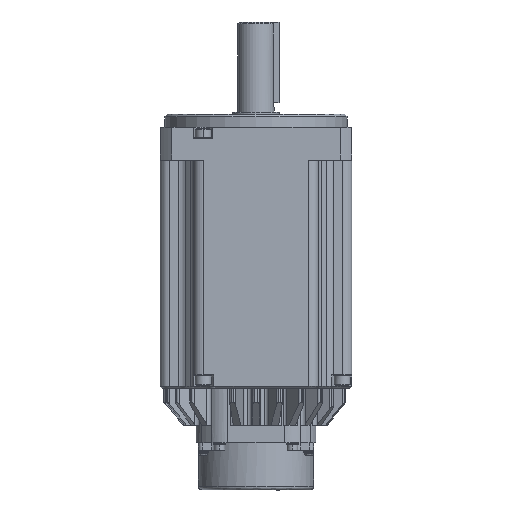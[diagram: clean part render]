
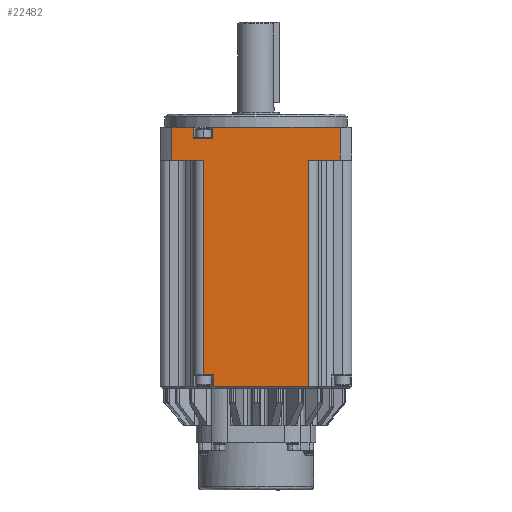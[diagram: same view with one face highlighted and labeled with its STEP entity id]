
A CAD part, front view. The second image highlights one B-rep face of the part: STEP entity #22482.
In plain terms, the highlighted planar face has unit normal (0, -1, 0).
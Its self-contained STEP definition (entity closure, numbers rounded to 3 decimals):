
#1395 = LINE ( 'NONE', #18752, #34320 ) ;
#1616 = EDGE_CURVE ( 'NONE', #54758, #41210, #4548, .T. ) ;
#1860 = VECTOR ( 'NONE', #55583, 1000. ) ;
#2058 = EDGE_CURVE ( 'NONE', #6399, #26367, #1395, .T. ) ;
#2328 = ORIENTED_EDGE ( 'NONE', *, *, #67729, .F. ) ;
#3023 = CARTESIAN_POINT ( 'NONE',  ( -20.939, -50.742, 287.007 ) ) ;
#3371 = ORIENTED_EDGE ( 'NONE', *, *, #28712, .F. ) ;
#4180 = LINE ( 'NONE', #26398, #54676 ) ;
#4548 = LINE ( 'NONE', #75736, #68411 ) ;
#6079 = VECTOR ( 'NONE', #28412, 1000. ) ;
#6326 = CARTESIAN_POINT ( 'NONE',  ( 44.061, -50.742, 270.007 ) ) ;
#6399 = VERTEX_POINT ( 'NONE', #40472 ) ;
#6717 = VECTOR ( 'NONE', #80818, 1000. ) ;
#7398 = PLANE ( 'NONE',  #83135 ) ;
#8842 = EDGE_CURVE ( 'NONE', #8883, #80556, #38994, .T. ) ;
#8883 = VERTEX_POINT ( 'NONE', #9469 ) ;
#9048 = VECTOR ( 'NONE', #61828, 1000. ) ;
#9469 = CARTESIAN_POINT ( 'NONE',  ( -32.283, -50.742, 287.007 ) ) ;
#10301 = VERTEX_POINT ( 'NONE', #29098 ) ;
#11108 = ORIENTED_EDGE ( 'NONE', *, *, #8842, .F. ) ;
#12714 = LINE ( 'NONE', #34054, #78614 ) ;
#13769 = CARTESIAN_POINT ( 'NONE',  ( -15.939, -50.742, 167.507 ) ) ;
#14044 = DIRECTION ( 'NONE',  ( 0., 0., 1. ) ) ;
#18350 = DIRECTION ( 'NONE',  ( -1., 0., 0. ) ) ;
#18752 = CARTESIAN_POINT ( 'NONE',  ( -10.439, -50.742, 167.507 ) ) ;
#19687 = FACE_OUTER_BOUND ( 'NONE', #35810, .T. ) ;
#20341 = CARTESIAN_POINT ( 'NONE',  ( 39.061, -50.742, 270.007 ) ) ;
#20408 = DIRECTION ( 'NONE',  ( 0., 0., 1. ) ) ;
#22482 = ADVANCED_FACE ( 'NONE', ( #19687 ), #7398, .F. ) ;
#24529 = LINE ( 'NONE', #64565, #59597 ) ;
#26367 = VERTEX_POINT ( 'NONE', #61054 ) ;
#26398 = CARTESIAN_POINT ( 'NONE',  ( -10.939, -50.742, 167.507 ) ) ;
#27089 = ORIENTED_EDGE ( 'NONE', *, *, #75361, .F. ) ;
#27459 = VERTEX_POINT ( 'NONE', #62434 ) ;
#27634 = ORIENTED_EDGE ( 'NONE', *, *, #1616, .F. ) ;
#28412 = DIRECTION ( 'NONE',  ( 1., 0., 0. ) ) ;
#28712 = EDGE_CURVE ( 'NONE', #27459, #31500, #51264, .T. ) ;
#29098 = CARTESIAN_POINT ( 'NONE',  ( -10.939, -50.742, 281.007 ) ) ;
#31337 = ORIENTED_EDGE ( 'NONE', *, *, #53091, .F. ) ;
#31440 = VECTOR ( 'NONE', #18350, 1000. ) ;
#31500 = VERTEX_POINT ( 'NONE', #46362 ) ;
#31691 = DIRECTION ( 'NONE',  ( 0., 0., -1. ) ) ;
#32054 = VERTEX_POINT ( 'NONE', #20341 ) ;
#33351 = ORIENTED_EDGE ( 'NONE', *, *, #36828, .F. ) ;
#33445 = DIRECTION ( 'NONE',  ( 0., 0., -1. ) ) ;
#34054 = CARTESIAN_POINT ( 'NONE',  ( 44.061, -50.742, 270.007 ) ) ;
#34320 = VECTOR ( 'NONE', #20408, 1000. ) ;
#35294 = CARTESIAN_POINT ( 'NONE',  ( 55.404, -50.742, 287.007 ) ) ;
#35810 = EDGE_LOOP ( 'NONE', ( #27634, #44591, #2328, #31337, #11108, #33351, #68542, #3371, #27089, #80148, #38919, #58759, #40185, #84434 ) ) ;
#36828 = EDGE_CURVE ( 'NONE', #64893, #8883, #39253, .T. ) ;
#37173 = VECTOR ( 'NONE', #81489, 1000. ) ;
#37525 = EDGE_CURVE ( 'NONE', #10301, #54758, #4180, .T. ) ;
#38458 = VECTOR ( 'NONE', #33445, 1000. ) ;
#38919 = ORIENTED_EDGE ( 'NONE', *, *, #40989, .F. ) ;
#38994 = LINE ( 'NONE', #68199, #6079 ) ;
#39253 = LINE ( 'NONE', #42031, #37173 ) ;
#40185 = ORIENTED_EDGE ( 'NONE', *, *, #62335, .F. ) ;
#40472 = CARTESIAN_POINT ( 'NONE',  ( -10.439, -50.742, 152.007 ) ) ;
#40834 = CARTESIAN_POINT ( 'NONE',  ( 44.061, -50.742, 281.007 ) ) ;
#40989 = EDGE_CURVE ( 'NONE', #62796, #6399, #76453, .T. ) ;
#41210 = VERTEX_POINT ( 'NONE', #35294 ) ;
#42031 = CARTESIAN_POINT ( 'NONE',  ( -32.283, -50.742, 167.507 ) ) ;
#42298 = CARTESIAN_POINT ( 'NONE',  ( -20.939, -50.742, 281.007 ) ) ;
#44319 = DIRECTION ( 'NONE',  ( -1., 0., 0. ) ) ;
#44591 = ORIENTED_EDGE ( 'NONE', *, *, #37525, .F. ) ;
#45702 = DIRECTION ( 'NONE',  ( 0., 0., 1. ) ) ;
#46350 = CARTESIAN_POINT ( 'NONE',  ( -32.283, -50.742, 270.007 ) ) ;
#46362 = CARTESIAN_POINT ( 'NONE',  ( -15.939, -50.742, 270.007 ) ) ;
#48970 = LINE ( 'NONE', #64394, #31440 ) ;
#51264 = LINE ( 'NONE', #13769, #84190 ) ;
#52348 = EDGE_CURVE ( 'NONE', #32054, #62796, #24529, .T. ) ;
#52362 = CARTESIAN_POINT ( 'NONE',  ( -10.939, -50.742, 287.007 ) ) ;
#52677 = VERTEX_POINT ( 'NONE', #42298 ) ;
#53091 = EDGE_CURVE ( 'NONE', #80556, #52677, #79089, .T. ) ;
#53472 = DIRECTION ( 'NONE',  ( 0., 1., 0. ) ) ;
#54422 = LINE ( 'NONE', #40834, #1860 ) ;
#54676 = VECTOR ( 'NONE', #79132, 1000. ) ;
#54758 = VERTEX_POINT ( 'NONE', #52362 ) ;
#54821 = VECTOR ( 'NONE', #44319, 1000. ) ;
#55583 = DIRECTION ( 'NONE',  ( 1., 0., 0. ) ) ;
#55699 = EDGE_CURVE ( 'NONE', #31500, #64893, #59283, .T. ) ;
#58759 = ORIENTED_EDGE ( 'NONE', *, *, #52348, .F. ) ;
#58928 = VERTEX_POINT ( 'NONE', #65971 ) ;
#59283 = LINE ( 'NONE', #6326, #6717 ) ;
#59597 = VECTOR ( 'NONE', #31691, 1000. ) ;
#61054 = CARTESIAN_POINT ( 'NONE',  ( -10.439, -50.742, 158.007 ) ) ;
#61828 = DIRECTION ( 'NONE',  ( 0., 0., -1. ) ) ;
#62335 = EDGE_CURVE ( 'NONE', #58928, #32054, #12714, .T. ) ;
#62434 = CARTESIAN_POINT ( 'NONE',  ( -15.939, -50.742, 158.007 ) ) ;
#62796 = VERTEX_POINT ( 'NONE', #80051 ) ;
#64394 = CARTESIAN_POINT ( 'NONE',  ( 44.061, -50.742, 158.007 ) ) ;
#64565 = CARTESIAN_POINT ( 'NONE',  ( 39.061, -50.742, 167.507 ) ) ;
#64893 = VERTEX_POINT ( 'NONE', #46350 ) ;
#65971 = CARTESIAN_POINT ( 'NONE',  ( 55.404, -50.742, 270.007 ) ) ;
#66412 = CARTESIAN_POINT ( 'NONE',  ( 44.061, -50.742, 167.507 ) ) ;
#67729 = EDGE_CURVE ( 'NONE', #52677, #10301, #54422, .T. ) ;
#68199 = CARTESIAN_POINT ( 'NONE',  ( -38.439, -50.742, 287.007 ) ) ;
#68411 = VECTOR ( 'NONE', #75379, 1000. ) ;
#68542 = ORIENTED_EDGE ( 'NONE', *, *, #55699, .F. ) ;
#73486 = LINE ( 'NONE', #79539, #38458 ) ;
#75041 = CARTESIAN_POINT ( 'NONE',  ( -20.939, -50.742, 167.507 ) ) ;
#75361 = EDGE_CURVE ( 'NONE', #26367, #27459, #48970, .T. ) ;
#75379 = DIRECTION ( 'NONE',  ( 1., 0., 0. ) ) ;
#75736 = CARTESIAN_POINT ( 'NONE',  ( -38.439, -50.742, 287.007 ) ) ;
#76453 = LINE ( 'NONE', #83742, #54821 ) ;
#77392 = EDGE_CURVE ( 'NONE', #41210, #58928, #73486, .T. ) ;
#78614 = VECTOR ( 'NONE', #80151, 1000. ) ;
#79089 = LINE ( 'NONE', #75041, #9048 ) ;
#79132 = DIRECTION ( 'NONE',  ( 0., 0., 1. ) ) ;
#79539 = CARTESIAN_POINT ( 'NONE',  ( 55.404, -50.742, 294.007 ) ) ;
#80051 = CARTESIAN_POINT ( 'NONE',  ( 39.061, -50.742, 152.007 ) ) ;
#80148 = ORIENTED_EDGE ( 'NONE', *, *, #2058, .F. ) ;
#80151 = DIRECTION ( 'NONE',  ( -1., 0., 0. ) ) ;
#80556 = VERTEX_POINT ( 'NONE', #3023 ) ;
#80818 = DIRECTION ( 'NONE',  ( -1., 0., 0. ) ) ;
#81489 = DIRECTION ( 'NONE',  ( 0., 0., 1. ) ) ;
#83135 = AXIS2_PLACEMENT_3D ( 'NONE', #66412, #53472, #14044 ) ;
#83742 = CARTESIAN_POINT ( 'NONE',  ( 44.061, -50.742, 152.007 ) ) ;
#84190 = VECTOR ( 'NONE', #45702, 1000. ) ;
#84434 = ORIENTED_EDGE ( 'NONE', *, *, #77392, .F. ) ;
